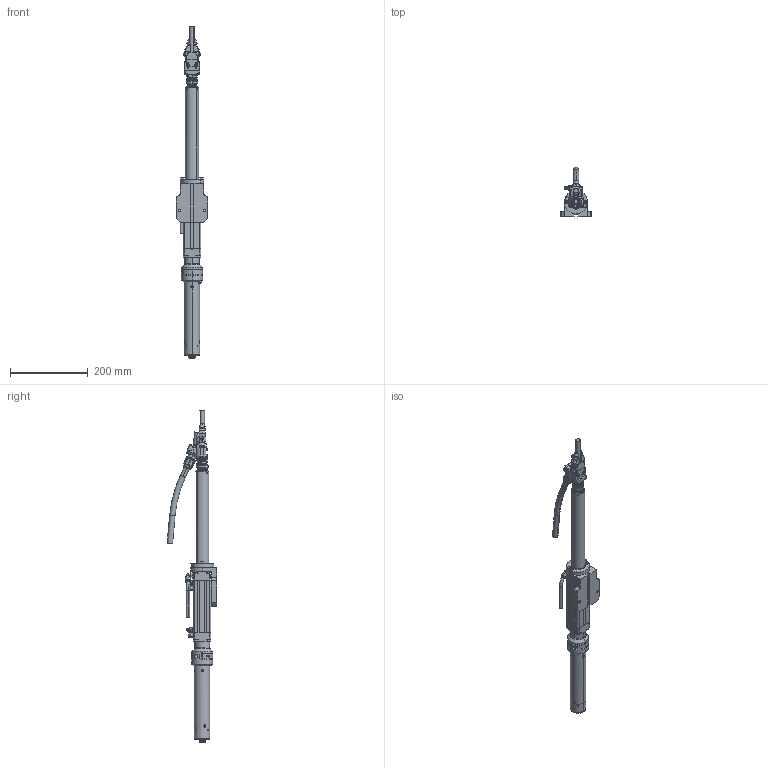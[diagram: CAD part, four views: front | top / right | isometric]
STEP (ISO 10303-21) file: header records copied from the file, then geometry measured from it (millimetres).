
FILE_DESCRIPTION (( 'STEP AP214' ), '1' );
FILE_NAME ('AA-VT.STEP', '2026-02-02T14:49:06', ( '' ), ( '' ), 'SwSTEP 2.0', 'SolidWorks 2022', '' );
FILE_SCHEMA (( 'AUTOMOTIVE_DESIGN' ));
Length unit declared in the file: millimetre
Products named in the file (1): AA-VT
Bounding box: 80 x 127.37 x 851.8 mm (x, y, z)
Surface area: 212895.6 mm2 (no closed solid volume)
Topology: 0 solids, 156 shells, 1143 faces, 4166 edges, 3092 vertices
Faces by surface type: plane 475, cylinder 418, cone 177, bspline 49, torus 16, sphere 8
Entity records: 69412 total; most frequent: CARTESIAN_POINT 22351, DIRECTION 7182, ORIENTED_EDGE 6287, EDGE_CURVE 4126, VERTEX_POINT 3084, AXIS2_PLACEMENT_3D 2613, LINE 1956, VECTOR 1956
